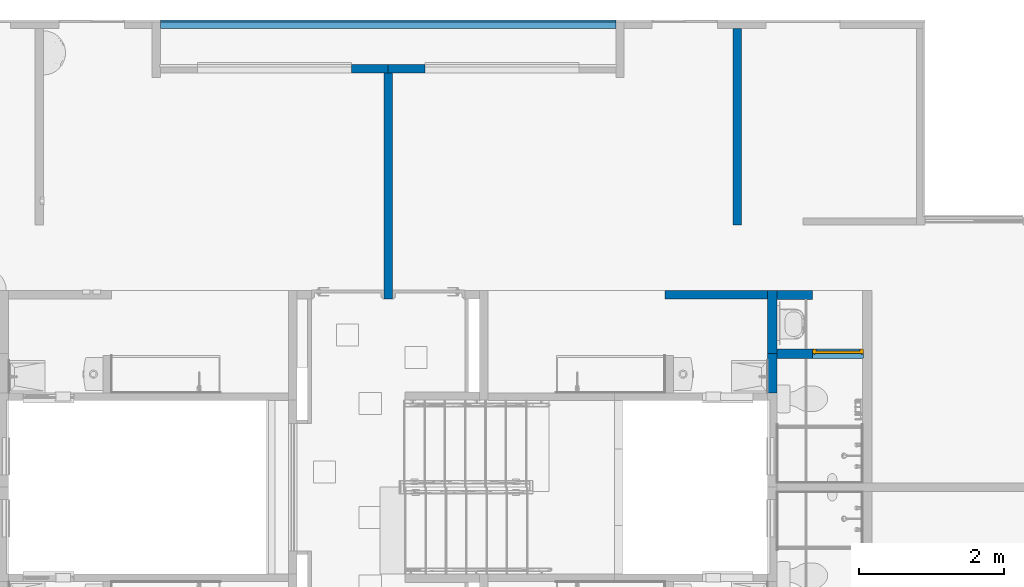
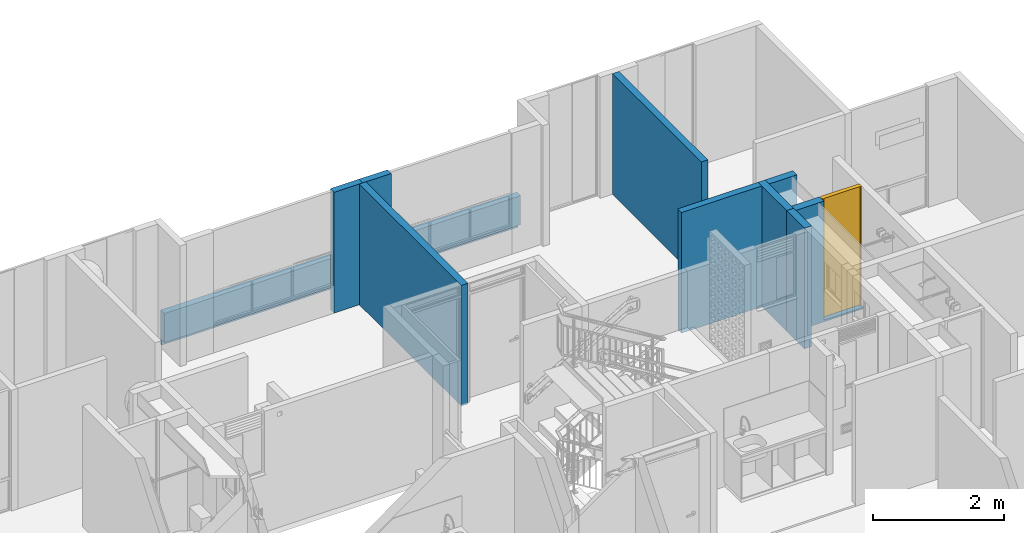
# One storey, part 23 of 51: 11 walls, 1 door, 1 opening.
"""IFC4 building model written with IfcOpenShell, lengths in metres."""

from ifc_helpers import new_model, entity, si_unit, converted_unit, derived_unit, direction, frame, origin, place, context, subcontext, project, spatial, indexed_curve, outline, extrude, polygons, source, transform, mapped, material, constituent, constituent_set, type_object, type_shapes, element, fill, save


model = new_model("IFC4")

# Units and contexts
model_context = context("Model", 3, precision=1e-05, world=origin(), true_north=direction((6.123031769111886e-17, 1.0)))
body_context = subcontext(model_context, "Body", "Model", "MODEL_VIEW")
ifc_project = project(units=[si_unit("LENGTHUNIT", "METRE"), si_unit("AREAUNIT", "SQUARE_METRE"), si_unit("VOLUMEUNIT", "CUBIC_METRE"), converted_unit("PLANEANGLEUNIT", "DEGREE", entity("IfcRatioMeasure", 0.017453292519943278), si_unit("PLANEANGLEUNIT", "RADIAN"), dimensions=[0, 0, 0, 0, 0, 0, 0]), si_unit("MASSUNIT", "GRAM", prefix="KILO"), derived_unit("MASSDENSITYUNIT", [(si_unit("MASSUNIT", "GRAM", prefix="KILO"), 1), (si_unit("LENGTHUNIT", "METRE"), -3)]), derived_unit("IONCONCENTRATIONUNIT", [(si_unit("MASSUNIT", "GRAM", prefix="KILO"), 1), (si_unit("LENGTHUNIT", "METRE"), -3)]), derived_unit("MOMENTOFINERTIAUNIT", [(si_unit("LENGTHUNIT", "METRE"), 4)]), si_unit("TIMEUNIT", "SECOND"), si_unit("FREQUENCYUNIT", "HERTZ"), si_unit("THERMODYNAMICTEMPERATUREUNIT", "DEGREE_CELSIUS"), derived_unit("THERMALTRANSMITTANCEUNIT", [(si_unit("MASSUNIT", "GRAM", prefix="KILO"), 1), (si_unit("THERMODYNAMICTEMPERATUREUNIT", "KELVIN"), -1), (si_unit("TIMEUNIT", "SECOND"), -3)]), derived_unit("THERMALCONDUCTANCEUNIT", [(si_unit("MASSUNIT", "GRAM", prefix="KILO"), 1), (si_unit("THERMODYNAMICTEMPERATUREUNIT", "KELVIN"), -1), (si_unit("TIMEUNIT", "SECOND"), -3), (si_unit("LENGTHUNIT", "METRE"), 1)]), derived_unit("VOLUMETRICFLOWRATEUNIT", [(si_unit("LENGTHUNIT", "METRE"), 3), (si_unit("TIMEUNIT", "SECOND"), -1)]), derived_unit("MASSFLOWRATEUNIT", [(si_unit("MASSUNIT", "GRAM", prefix="KILO"), 1), (si_unit("TIMEUNIT", "SECOND"), -1)]), derived_unit("ROTATIONALFREQUENCYUNIT", [(si_unit("TIMEUNIT", "SECOND"), -1)]), si_unit("ELECTRICCURRENTUNIT", "AMPERE"), si_unit("ELECTRICVOLTAGEUNIT", "VOLT"), si_unit("POWERUNIT", "WATT"), si_unit("FORCEUNIT", "NEWTON", prefix="KILO"), si_unit("ILLUMINANCEUNIT", "LUX"), si_unit("LUMINOUSFLUXUNIT", "LUMEN"), si_unit("LUMINOUSINTENSITYUNIT", "CANDELA"), derived_unit("USERDEFINED", [(si_unit("MASSUNIT", "GRAM", prefix="KILO"), -1), (si_unit("LENGTHUNIT", "METRE"), -2), (si_unit("TIMEUNIT", "SECOND"), 3), (si_unit("LUMINOUSFLUXUNIT", "LUMEN"), 1)]), derived_unit("USERDEFINED", [(si_unit("MASSUNIT", "GRAM", prefix="KILO"), 1), (si_unit("TIMEUNIT", "SECOND"), -3), (si_unit("LENGTHUNIT", "METRE"), 3), (si_unit("ELECTRICCURRENTUNIT", "AMPERE"), -2)]), derived_unit("SOUNDPOWERUNIT", [(si_unit("MASSUNIT", "GRAM", prefix="KILO"), 1), (si_unit("TIMEUNIT", "SECOND"), -3), (si_unit("LENGTHUNIT", "METRE"), 2)]), derived_unit("SOUNDPRESSUREUNIT", [(si_unit("MASSUNIT", "GRAM", prefix="KILO"), 1), (si_unit("LENGTHUNIT", "METRE"), -1), (si_unit("TIMEUNIT", "SECOND"), -2)]), derived_unit("LINEARVELOCITYUNIT", [(si_unit("LENGTHUNIT", "METRE"), 1), (si_unit("TIMEUNIT", "SECOND"), -1)]), si_unit("PRESSUREUNIT", "PASCAL"), derived_unit("USERDEFINED", [(si_unit("MASSUNIT", "GRAM", prefix="KILO"), 1), (si_unit("LENGTHUNIT", "METRE"), -2), (si_unit("TIMEUNIT", "SECOND"), -2)]), derived_unit("LINEARFORCEUNIT", [(si_unit("MASSUNIT", "GRAM", prefix="KILO"), 1), (si_unit("TIMEUNIT", "SECOND"), -2)]), derived_unit("PLANARFORCEUNIT", [(si_unit("MASSUNIT", "GRAM", prefix="KILO"), 1), (si_unit("LENGTHUNIT", "METRE"), -1), (si_unit("TIMEUNIT", "SECOND"), -2)]), derived_unit("SPECIFICHEATCAPACITYUNIT", [(si_unit("THERMODYNAMICTEMPERATUREUNIT", "KELVIN"), -1), (si_unit("LENGTHUNIT", "METRE"), 2), (si_unit("TIMEUNIT", "SECOND"), -2)]), derived_unit("HEATINGVALUEUNIT", [(si_unit("LENGTHUNIT", "METRE"), 2), (si_unit("TIMEUNIT", "SECOND"), -2)]), derived_unit("VAPORPERMEABILITYUNIT", [(si_unit("LENGTHUNIT", "METRE"), -1), (si_unit("TIMEUNIT", "SECOND"), 1)]), derived_unit("DYNAMICVISCOSITYUNIT", [(si_unit("MASSUNIT", "GRAM", prefix="KILO"), 1), (si_unit("TIMEUNIT", "SECOND"), -1), (si_unit("LENGTHUNIT", "METRE"), -1)]), derived_unit("THERMALEXPANSIONCOEFFICIENTUNIT", [(si_unit("THERMODYNAMICTEMPERATUREUNIT", "KELVIN"), -1)]), derived_unit("MODULUSOFELASTICITYUNIT", [(si_unit("MASSUNIT", "GRAM", prefix="KILO"), 1), (si_unit("LENGTHUNIT", "METRE"), -1), (si_unit("TIMEUNIT", "SECOND"), -2)]), derived_unit("ISOTHERMALMOISTURECAPACITYUNIT", [(si_unit("LENGTHUNIT", "METRE"), 3), (si_unit("MASSUNIT", "GRAM", prefix="KILO"), -1)]), derived_unit("MOISTUREDIFFUSIVITYUNIT", [(si_unit("TIMEUNIT", "SECOND"), -1), (si_unit("LENGTHUNIT", "METRE"), 2)])], contexts=[model_context])

# Site, building, storey
site_placement = place(None, origin())
site = spatial("IfcSite", under=ifc_project, at=site_placement, Name="Default", CompositionType="ELEMENT")
building_placement = place(site_placement, origin())
building = spatial("IfcBuilding", under=site, at=building_placement, CompositionType="ELEMENT")
storey_placement = place(building_placement, frame((0.0, 0.0, 2.350000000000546)))
storey = spatial("IfcBuildingStorey", under=building, at=storey_placement, Name="Nivel 2", CompositionType="ELEMENT", Elevation=2.350000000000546)

# Walls
ifc_material_1 = material(Name="Concreto (Aire)", Category="Materials")
wall_type_1 = type_object("IfcWallType", Name="Basic Wall:B2010 - 0.12m - Muro interior en concreto", PredefinedType="STANDARD")
wall_1_placement = place(storey_placement, frame((9.32250000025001, -3.8249999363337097, 0.0), z_axis=(0.0, 0.0, 1.0), x_axis=(0.0, 1.0, 0.0)))
element("IfcWall", 1, at=wall_1_placement, inside=storey, type_object=wall_type_1, material=ifc_material_1, Name="Basic Wall:B2010 - 0.12m - Muro interior en concreto", ObjectType="Basic Wall:B2010 - 0.12m - Muro interior en concreto", PredefinedType="NOTDEFINED", context=body_context, shape_type="SweptSolid", body=[
    extrude(outline(indexed_curve([(3.1149999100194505, 0.06000000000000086), (8.03641024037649e-16, 0.060000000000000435), (2.792261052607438e-16, -0.060000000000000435), (3.1149999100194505, -0.06000000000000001), (3.1149999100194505, 0.06000000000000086)], self_intersect=False)), origin(), (0.0, 0.0, 1.0), 2.250000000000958),
])
ifc_material_2 = material(Name="LADRILLO CLARO", Category="Materials")
wall_type_2 = type_object("IfcWallType", Name="Basic Wall:B2010 - 0.115m - ME mampostería no estructural - Ladrillo", PredefinedType="STANDARD")
wall_2_placement = place(storey_placement, frame((8.817499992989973, -0.6525000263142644, 0.0)))
element("IfcWall", 2, at=wall_2_placement, inside=storey, type_object=wall_type_2, material=ifc_material_2, Name="Basic Wall:B2010 - 0.115m - ME mampostería no estructural - Ladrillo", ObjectType="Basic Wall:B2010 - 0.115m - ME mampostería no estructural - Ladrillo", PredefinedType="NOTDEFINED", context=body_context, shape_type="SweptSolid", body=[
    extrude(outline(indexed_curve([(0.505000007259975, 0.057500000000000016), (-1.5987656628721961e-15, 0.05749999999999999), (-5.6696859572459e-16, -0.05750000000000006), (0.505000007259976, -0.05750000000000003), (0.505000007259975, 0.057500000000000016)], self_intersect=False)), origin(), (0.0, 0.0, 1.0), 2.2500000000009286),
])
wall_3_placement = place(storey_placement, frame((9.827500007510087, -0.6525000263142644, 0.0), z_axis=(0.0, 0.0, 1.0), x_axis=(-1.0, 0.0, 0.0)))
element("IfcWall", 3, at=wall_3_placement, inside=storey, type_object=wall_type_2, material=ifc_material_2, Name="Basic Wall:B2010 - 0.115m - ME mampostería no estructural - Ladrillo", ObjectType="Basic Wall:B2010 - 0.115m - ME mampostería no estructural - Ladrillo", PredefinedType="NOTDEFINED", context=body_context, shape_type="SweptSolid", body=[
    extrude(outline(indexed_curve([(0.5050000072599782, 0.05750000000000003), (-5.6696859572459e-16, 0.05750000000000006), (5.669685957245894e-16, -0.05749999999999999), (0.5050000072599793, -0.057500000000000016), (0.5050000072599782, 0.05750000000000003)], self_intersect=False)), origin(), (0.0, 0.0, 1.0), 2.2500000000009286),
])
ifc_material_3 = material(Name="Ladrillo claro (Aire)", Category="Materials")
wall_type_3 = type_object("IfcWallType", Name="Basic Wall:B2010 - 0.115m - Muro interior en mampostería - Ladrillo", PredefinedType="STANDARD")
wall_4_placement = place(storey_placement, frame((14.135000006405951, -0.09500002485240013, 0.0), z_axis=(0.0, 0.0, 1.0), x_axis=(0.0, -1.0, 0.0)))
element("IfcWall", 4, at=wall_4_placement, inside=storey, type_object=wall_type_3, material=ifc_material_3, Name="Basic Wall:B2010 - 0.115m - Muro interior en mampostería - Ladrillo", ObjectType="Basic Wall:B2010 - 0.115m - Muro interior en mampostería - Ladrillo", PredefinedType="NOTDEFINED", context=body_context, shape_type="SweptSolid", body=[
    extrude(outline(indexed_curve([(2.7150000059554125, 0.05749999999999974), (-3.2594452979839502e-18, 0.057499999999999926), (3.2594452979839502e-18, -0.057499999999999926), (2.7150000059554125, -0.05750000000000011), (2.7150000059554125, 0.05749999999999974)], self_intersect=False)), origin(), (0.0, 0.0, 1.0), 2.2499999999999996),
])
wall_5_placement = place(storey_placement, frame((14.557500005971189, -3.7675000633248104, 0.0), z_axis=(0.0, 0.0, 1.0), x_axis=(-1.0, 0.0, 0.0)))
element("IfcWall", 5, at=wall_5_placement, inside=storey, type_object=wall_type_3, material=ifc_material_3, Name="Basic Wall:B2010 - 0.115m - Muro interior en mampostería - Ladrillo", ObjectType="Basic Wall:B2010 - 0.115m - Muro interior en mampostería - Ladrillo", PredefinedType="NOTDEFINED", context=body_context, shape_type="SweptSolid", body=[
    extrude(outline(indexed_curve([(1.414999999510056, 0.057499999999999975), (1.9595423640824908e-16, 0.057499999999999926), (-1.9595423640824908e-16, -0.057499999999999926), (1.4149999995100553, -0.05749999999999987), (1.414999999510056, 0.057499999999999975)], self_intersect=False)), origin(), (0.0, 0.0, 1.0), 2.2499999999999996),
])
wall_6_placement = place(storey_placement, frame((6.182499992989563, -0.037500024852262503, 0.0)))
element("IfcWall", 6, at=wall_6_placement, inside=storey, type_object=wall_type_3, material=ifc_material_3, Name="Basic Wall:B2010 - 0.115m - Muro interior en mampostería - Ladrillo", ObjectType="Basic Wall:B2010 - 0.115m - Muro interior en mampostería - Ladrillo", PredefinedType="NOTDEFINED", context=body_context, shape_type="SweptSolid", body=[
    extrude(outline(indexed_curve([(6.280000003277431, 0.0575), (-1.8582478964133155e-16, 0.0575), (1.8582478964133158e-16, -0.05750000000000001), (6.280000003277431, -0.057500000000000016), (6.280000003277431, 0.0575)], self_intersect=False)), origin(), (0.0, 0.0, 1.0), 0.5399999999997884),
])
ifc_material_4 = material(Name="Pañete", Category="Materials")
ifc_constituent_1 = constituent(ifc_material_4, Name="Pañete", Category="Materials")
ifc_constituent_2 = constituent(ifc_material_3, Name="Ladrillo claro (Aire)", Category="Materials")
ifc_constituent_set_1 = constituent_set(constituents=[ifc_constituent_1, ifc_constituent_2], Name="Basic Wall:B2010 - 0.115m - Muro interior en mampostería - Ladrillo + Pañete")
wall_type_4 = type_object("IfcWallType", Name="Basic Wall:B2010 - 0.115m - Muro interior en mampostería - Ladrillo + Pañete", PredefinedType="STANDARD", material=ifc_constituent_set_1)
wall_7_placement = place(storey_placement, frame((15.172500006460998, -3.7725000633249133, 0.0), z_axis=(0.0, 0.0, 1.0), x_axis=(-1.0, 0.0, 0.0)))
element("IfcWall", 7, at=wall_7_placement, inside=storey, type_object=wall_type_4, material=ifc_constituent_set_1, Name="Basic Wall:B2010 - 0.115m - Muro interior en mampostería - Ladrillo + Pañete", ObjectType="Basic Wall:B2010 - 0.115m - Muro interior en mampostería - Ladrillo + Pañete", PredefinedType="NOTDEFINED", context=body_context, shape_type="SweptSolid", body=[
    extrude(outline(indexed_curve([(-0.004999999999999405, -0.24500000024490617), (0.0050000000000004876, -0.24500000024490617), (0.004999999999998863, 0.245000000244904), (-0.005000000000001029, 0.245000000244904), (-0.004999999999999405, -0.24500000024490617)], self_intersect=False)), frame((0.24500000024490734, 0.057499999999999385, 0.0), z_axis=(0.0, 0.0, 1.0), x_axis=(0.0, -1.0, 0.0)), (0.0, 0.0, 1.0), 2.250000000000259),
    extrude(outline(indexed_curve([(-0.057499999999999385, -0.245000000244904), (0.05750000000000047, -0.245000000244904), (0.057499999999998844, 0.24500000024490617), (-0.05750000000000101, 0.24500000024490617), (-0.057499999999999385, -0.245000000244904)], self_intersect=False)), frame((0.24500000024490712, -0.004999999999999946, 0.0), z_axis=(0.0, 0.0, 1.0), x_axis=(0.0, 1.0, 0.0)), (0.0, 0.0, 1.0), 2.250000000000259),
])

# Wall, opening, door
ifc_constituent_3 = constituent(ifc_material_4, Name="Pañete", Category="Materials")
ifc_constituent_4 = constituent(ifc_material_2, Name="LADRILLO CLARO", Category="Materials")
ifc_constituent_5 = constituent(ifc_material_4, Name="Pañete (2)", Category="Materials")
ifc_constituent_set_2 = constituent_set(constituents=[ifc_constituent_3, ifc_constituent_4, ifc_constituent_5], Name="Basic Wall:B2010 - 0.115m - MI  mampostería no estructural - Pañete + Ladrillo + Pañete")
wall_type_5 = type_object("IfcWallType", Name="Basic Wall:B2010 - 0.115m - MI  mampostería no estructural - Pañete + Ladrillo + Pañete", PredefinedType="STANDARD", material=ifc_constituent_set_2)
wall_8_placement = place(storey_placement, frame((14.682500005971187, -4.582500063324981, 0.0)))
wall_8 = element("IfcWall", 8, at=wall_8_placement, inside=storey, type_object=wall_type_5, material=ifc_constituent_set_2, Name="Basic Wall:B2010 - 0.115m - MI  mampostería no estructural - Pañete + Ladrillo + Pañete", ObjectType="Basic Wall:B2010 - 0.115m - MI  mampostería no estructural - Pañete + Ladrillo + Pañete", PredefinedType="NOTDEFINED", context=body_context, shape_type="SweptSolid", body=[
    extrude(outline(indexed_curve([(-1.1325000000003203, -0.5199994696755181), (1.1175000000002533, -0.5199994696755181), (1.1175000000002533, -0.12999946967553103), (1.1175000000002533, -0.10999946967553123), (1.1175000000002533, -0.0250005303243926), (-1.1025000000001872, -0.0250005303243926), (-1.1025000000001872, 0.6649994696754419), (-1.13250000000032, 0.6649994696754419), (-1.1325000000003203, -0.5199994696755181)], self_intersect=False)), frame((0.5199994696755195, -0.06750000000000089, 1.1325000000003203), z_axis=(0.0, 1.0, 0.0), x_axis=(0.0, 0.0, 1.0)), (0.0, 0.0, 1.0), 0.010000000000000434),
    extrude(outline(indexed_curve([(-0.7600000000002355, -0.5599992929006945), (1.4900000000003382, -0.5599992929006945), (1.4900000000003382, -0.06500035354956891), (-0.7300000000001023, -0.06500035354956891), (-0.7300000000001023, 0.6249996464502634), (-0.7600000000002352, 0.6249996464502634), (-0.7600000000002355, -0.5599992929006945)], self_intersect=False)), frame((0.5599992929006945, 0.057499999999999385, 0.7600000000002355), z_axis=(0.0, 1.0, 0.0), x_axis=(0.0, 0.0, 1.0)), (0.0, 0.0, 1.0), 0.009999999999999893),
    extrude(outline(indexed_curve([(-0.7600000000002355, -0.5633326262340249), (1.4900000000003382, -0.563332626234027), (1.4900000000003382, -0.06833368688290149), (-0.7300000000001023, -0.06833368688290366), (-0.7300000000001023, 0.6316663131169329), (-0.7600000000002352, 0.6316663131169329), (-0.7600000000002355, -0.5633326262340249)], self_intersect=False)), frame((0.5633326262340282, -0.05750000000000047, 0.7600000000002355), z_axis=(0.0, 1.0, 0.0), x_axis=(0.0, 0.0, 1.0)), (0.0, 0.0, 1.0), 0.11499999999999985),
])
opening_placement = place(wall_8_placement, frame((1.1949989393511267, 0.06749999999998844, 0.030000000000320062)))
opening = element("IfcOpeningElement", 9, at=opening_placement, cuts=wall_8, Name="C1030 - Puerta batiente - Madera+Aluminio:C1030 - 0.70 x 2.22 - Puerta batiente - Madera+ Metal:1", PredefinedType="OPENING", context=body_context, shape_type="SweptSolid", body=[
    extrude(outline(indexed_curve([(1.438182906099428e-16, 0.7000000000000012), (1.438182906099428e-16, 0.0), (2.2199999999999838, 0.0), (2.2199999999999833, 0.7000000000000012), (1.438182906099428e-16, 0.7000000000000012)], self_intersect=False)), frame((0.0, 0.0, 0.0), z_axis=(0.0, -1.0, 0.0), x_axis=(0.0, 0.0, 1.0)), (0.0, 0.0, 1.0), 0.13499999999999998),
])
ifc_material_5 = material(Name="<Unnamed>")
door_type = type_object("IfcDoorType", Name="C1030 - Puerta batiente - Madera+Aluminio:C1030 - 0.70 x 2.22 - Puerta batiente - Madera+ Metal", OperationType="SINGLE_SWING_LEFT", PredefinedType="DOOR", material=ifc_material_5)
shared_shape = source(origin(), body_context, "Body", "Tessellation", [
    polygons([(0.6699999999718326, 0.06499999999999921, 0.009880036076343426), (0.6699999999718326, 0.0324999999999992, 0.009880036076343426), (0.030000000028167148, 0.0324999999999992, 0.009880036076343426), (0.030000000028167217, 0.06499999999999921, 0.009880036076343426), (0.6699999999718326, 0.06499999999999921, 2.2050000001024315), (0.6699999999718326, 0.0324999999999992, 2.2050000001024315), (0.030000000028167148, 0.0324999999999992, 2.2050000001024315), (0.030000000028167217, 0.06499999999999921, 2.2050000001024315)], [[[1, 2, 3, 4]], [[5, 6, 2, 1]], [[6, 7, 3, 2]], [[7, 8, 4, 3]], [[8, 5, 1, 4]], [[5, 8, 7, 6]]], closed=True),
    polygons([(0.6849999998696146, 0.0649999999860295, 0.0), (0.7, 0.0649999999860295, 0.0), (0.7, 0.0074999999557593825, 0.0), (0.6849999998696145, 0.007499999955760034, 0.0), (0.6849999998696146, -5.075939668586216e-17, 0.0), (0.6549999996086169, -1.6919798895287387e-17, 0.0), (0.6549999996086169, 0.04000000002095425, 0.0), (0.6699999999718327, 0.04000000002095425, 0.0), (0.6699999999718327, 0.07999999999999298, 0.0), (0.6849999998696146, 0.07999999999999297, 0.0), (0.7, 0.0074999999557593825, 2.2199999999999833), (0.6849999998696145, 0.007499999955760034, 2.2199999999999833), (0.6849999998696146, 0.0649999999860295, 2.2199999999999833), (0.7, 0.0649999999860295, 2.2199999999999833), (0.015000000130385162, 0.06499999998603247, 0.0), (0.015000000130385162, 0.07999999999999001, 0.0), (0.030000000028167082, 0.07999999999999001, 0.0), (0.030000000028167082, 0.04000000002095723, 0.0), (0.04500000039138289, 0.04000000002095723, 0.0), (0.04500000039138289, 0.0, 0.0), (0.01500000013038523, 0.0, 0.0), (0.015000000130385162, 0.007499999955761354, 0.0), (0.0, 0.007499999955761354, 0.0), (0.0, 0.06499999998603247, 0.0), (0.0, 0.06499999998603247, 2.2199999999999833), (0.015000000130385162, 0.06499999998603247, 2.2199999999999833), (0.015000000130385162, 0.007499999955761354, 2.2199999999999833), (0.0, 0.007499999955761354, 2.2199999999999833), (0.04500000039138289, 0.04000000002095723, 2.2050000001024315), (0.04500000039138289, 0.03250000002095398, 2.2050000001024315), (0.04500000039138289, 0.03250000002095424, 2.189999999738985), (0.04500000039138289, 0.0, 2.189999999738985), (0.6549999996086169, -1.6919798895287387e-17, 2.189999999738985), (0.6549999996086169, 0.032500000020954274, 2.189999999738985), (0.6549999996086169, 0.03250000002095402, 2.2050000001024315), (0.6549999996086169, 0.04000000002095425, 2.2050000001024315), (0.030000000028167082, 0.07999999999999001, 2.2199999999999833), (0.030000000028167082, 0.07249999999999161, 2.2199999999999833), (0.030000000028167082, 0.07249999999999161, 2.2050000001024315), (0.030000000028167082, 0.04000000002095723, 2.2050000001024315), (0.6699999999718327, 0.04000000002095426, 2.2050000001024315), (0.6699999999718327, 0.07249999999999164, 2.2050000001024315), (0.6699999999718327, 0.07249999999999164, 2.2199999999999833), (0.6699999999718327, 0.07999999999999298, 2.2199999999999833), (0.015000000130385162, 0.07999999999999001, 2.2199999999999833), (0.6849999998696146, -5.075939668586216e-17, 2.2199999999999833), (0.01500000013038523, 0.0, 2.2199999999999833), (0.6849999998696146, 0.07999999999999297, 2.2199999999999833)], [[[1, 2, 3, 4, 5, 6, 7, 8, 9, 10]], [[11, 12, 4, 3]], [[13, 14, 2, 1]], [[15, 16, 17, 18, 19, 20, 21, 22, 23, 24]], [[25, 26, 15, 24]], [[27, 28, 23, 22]], [[20, 19, 29, 30, 31, 32]], [[7, 6, 33, 34, 35, 36]], [[18, 17, 37, 38, 39, 40]], [[9, 8, 41, 42, 43, 44]], [[28, 25, 24, 23]], [[14, 11, 3, 2]], [[26, 45, 16, 15]], [[45, 37, 17, 16]], [[19, 18, 40, 29]], [[21, 20, 32, 33, 6, 5, 46, 47]], [[47, 27, 22, 21]], [[12, 46, 5, 4]], [[48, 13, 1, 10]], [[26, 25, 28, 27, 47, 46, 12, 11, 14, 13, 48, 44, 43, 38, 37, 45]], [[39, 42, 41, 36, 35, 30, 29, 40]], [[33, 32, 31, 34]], [[8, 7, 36, 41]], [[44, 48, 10, 9]], [[34, 31, 30, 35]], [[42, 39, 38, 43]]], closed=True),
])
type_shapes(door_type, [shared_shape])
door_placement = place(opening_placement, frame((0.0, 0.0, 0.0), z_axis=(0.0, 0.0, 1.0), x_axis=(-1.0, 0.0, 0.0)))
door = element("IfcDoor", 10, at=door_placement, inside=storey, type_object=door_type, material=ifc_material_5, Name="C1030 - Puerta batiente - Madera+Aluminio:C1030 - 0.70 x 2.22 - Puerta batiente - Madera+ Metal", ObjectType="C1030 - Puerta batiente - Madera+Aluminio:C1030 - 0.70 x 2.22 - Puerta batiente - Madera+ Metal", OperationType="SINGLE_SWING_LEFT", OverallHeight=2.2199999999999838, OverallWidth=0.7000000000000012, PredefinedType="DOOR", context=body_context, shape_type="MappedRepresentation", body=[
    mapped(shared_shape, transform((0.0, 0.0, 0.0), scale=1.0)),
])
fill(opening, door)

# Walls
ifc_material_6 = material(Name="Pañete, estuco y pintura", Category="Materials")
ifc_constituent_6 = constituent(ifc_material_6, Name="Pañete, estuco y pintura", Category="Materials")
ifc_constituent_7 = constituent(ifc_material_3, Name="Ladrillo claro (Aire)", Category="Materials")
ifc_constituent_set_3 = constituent_set(constituents=[ifc_constituent_6, ifc_constituent_7], Name="Basic Wall:B2010 - 0.115m - Muro interior en mampostería - Ladrillo + Pañete+ estuco+ pintura")
wall_type_6 = type_object("IfcWallType", Name="Basic Wall:B2010 - 0.115m - Muro interior en mampostería - Ladrillo + Pañete+ estuco+ pintura", PredefinedType="STANDARD", material=ifc_constituent_set_3)
wall_9_placement = place(storey_placement, frame((14.620000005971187, -3.7100000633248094, 0.0), z_axis=(0.0, 0.0, 1.0), x_axis=(0.0, -1.0, 0.0)))
element("IfcWall", 11, at=wall_9_placement, inside=storey, type_object=wall_type_6, material=ifc_constituent_set_3, Name="Basic Wall:B2010 - 0.115m - Muro interior en mampostería - Ladrillo + Pañete+ estuco+ pintura", ObjectType="Basic Wall:B2010 - 0.115m - Muro interior en mampostería - Ladrillo + Pañete+ estuco+ pintura", PredefinedType="NOTDEFINED", context=body_context, shape_type="SweptSolid", body=[
    extrude(outline(indexed_curve([(-0.35916666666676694, -0.0033333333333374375), (0.3208333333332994, -0.0033333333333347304), (0.44583333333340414, -0.003333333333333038), (0.4458333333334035, 0.0066666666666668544), (-0.42666666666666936, 0.006666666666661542), (-0.4266666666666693, -0.0033333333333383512), (-0.35916666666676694, -0.0033333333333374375)], self_intersect=False)), frame((0.4458333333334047, 0.05916666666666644, 0.0), z_axis=(0.0, 0.0, 1.0), x_axis=(-1.0, 0.0, 0.0)), (0.0, 0.0, 1.0), 2.2499999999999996),
    extrude(outline(indexed_curve([(-0.2570000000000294, -0.046000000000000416), (0.5005000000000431, -0.046000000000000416), (0.5005000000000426, 0.06899999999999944), (-0.3720000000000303, 0.06899999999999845), (-0.37200000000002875, -0.046000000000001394), (-0.2570000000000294, -0.046000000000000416)], self_intersect=False)), frame((0.37200000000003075, -0.016499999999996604, 0.0)), (0.0, 0.0, 1.0), 2.2499999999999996),
])
wall_10_placement = place(storey_placement, frame((14.620000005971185, -4.582500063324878, 0.0), z_axis=(0.0, 0.0, 1.0), x_axis=(0.0, -1.0, 0.0)))
element("IfcWall", 12, at=wall_10_placement, inside=storey, type_object=wall_type_6, material=ifc_constituent_set_3, Name="Basic Wall:B2010 - 0.115m - Muro interior en mampostería - Ladrillo + Pañete+ estuco+ pintura", ObjectType="Basic Wall:B2010 - 0.115m - Muro interior en mampostería - Ladrillo + Pañete+ estuco+ pintura", PredefinedType="NOTDEFINED", context=body_context, shape_type="SweptSolid", body=[
    extrude(outline(indexed_curve([(0.162805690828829, -0.004000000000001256), (0.23030569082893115, -0.004000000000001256), (0.23030569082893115, 0.005999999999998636), (-0.3117085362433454, 0.006000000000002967), (-0.3117085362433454, -0.003999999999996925), (0.162805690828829, -0.004000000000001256)], self_intersect=False)), frame((0.23030569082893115, 0.05850000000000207, 0.0), z_axis=(0.0, 0.0, 1.0), x_axis=(-1.0, 0.0, 0.0)), (0.0, 0.0, 1.0), 2.2499999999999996),
    extrude(outline(indexed_curve([(-0.12467143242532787, -0.0383333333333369), (-0.09067143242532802, -0.0383333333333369), (0.3248428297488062, -0.03833333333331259), (0.32484282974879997, 0.07666666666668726), (-0.21717139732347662, 0.07666666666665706), (-0.21717139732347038, -0.03833333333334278), (-0.12467143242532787, -0.0383333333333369)], self_intersect=False)), frame((0.2171713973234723, -0.024166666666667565, 0.0)), (0.0, 0.0, 1.0), 2.2499999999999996),
])
wall_type_7 = type_object("IfcWallType", Name="Basic Wall:B2010 - 0.03m - ME enchape  no estructural - Ladrillo", PredefinedType="STANDARD")
wall_11_placement = place(storey_placement, frame((6.182499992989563, 0.004999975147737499, -0.10000000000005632)))
element("IfcWall", 13, at=wall_11_placement, inside=storey, type_object=wall_type_7, material=ifc_material_2, Name="Basic Wall:B2010 - 0.03m - ME enchape  no estructural - Ladrillo", ObjectType="Basic Wall:B2010 - 0.03m - ME enchape  no estructural - Ladrillo", PredefinedType="NOTDEFINED", context=body_context, shape_type="SweptSolid", body=[
    extrude(outline(indexed_curve([(6.280000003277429, 0.015), (-4.846592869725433e-17, 0.015), (4.846592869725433e-17, -0.015), (6.280000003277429, -0.015), (6.280000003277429, 0.015)], self_intersect=False)), origin(), (0.0, 0.0, 1.0), 0.1),
])

save(model, "model.ifc")
